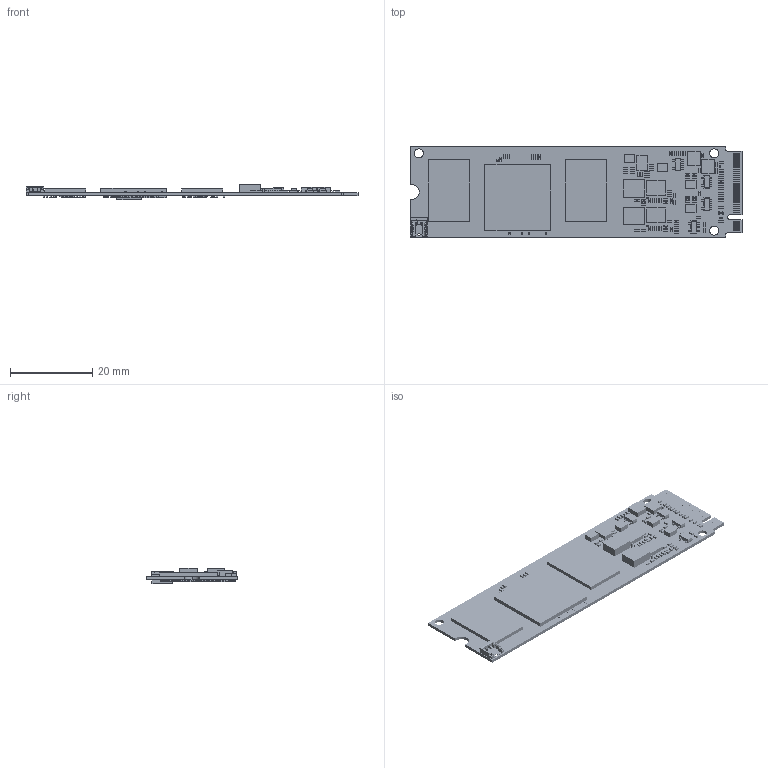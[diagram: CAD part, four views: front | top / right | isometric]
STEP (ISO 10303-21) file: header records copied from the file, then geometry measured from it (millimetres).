
FILE_DESCRIPTION((''),'2;1');
FILE_NAME('RM650_V1_1_20251020_ASM','2026-06-22T14:44:57',('Owen'),(''),'CREO PARAMETRIC BY PTC INC, 2026053','CREO PARAMETRIC BY PTC INC, 2026053','');
FILE_SCHEMA(('CONFIG_CONTROL_DESIGN','SHAPE_APPEARANCE_LAYERS_GROUPS'));
Length unit declared in the file: millimetre
Products named in the file (21): RM650_V1_1_20251020; R0201; L0402_4P2X4P4X1P8; QFN12_MP2145; QFN21_4P0X3P0_0P4; SOT23_3; L1008; AX650_16X16_0P5658; BGA200_15P0X10P0_0P65; X4_2016_H0P5; JUNCTION_P2; WSON8_6P0X5P0_1P27; SOT23_5; C0402S; C0201S; R0201S; R0402S; L0402S; __20002; 0007017_ASM; RM650_V1_1_20251020_ASM
Assembly tree (303 placements, depth 3):
  RM650_V1_1_20251020_ASM
    RM650_V1_1_20251020
    R0201
    L0402_4P2X4P4X1P8  x2
    QFN12_MP2145
    QFN21_4P0X3P0_0P4  x2
    SOT23_3  x2
    L1008  x4
    AX650_16X16_0P5658
    BGA200_15P0X10P0_0P65  x2
    X4_2016_H0P5
    JUNCTION_P2  x2
    WSON8_6P0X5P0_1P27
    SOT23_5  x4
    C0402S  x50
    C0201S  x149
    R0201S  x11
    R0402S  x65
    L0402S  x2
    0007017_ASM
      __20002
Bounding box: 80.5 x 22 x 3.7 mm (x, y, z)
Volume: 2187.8 mm3; surface area: 6155.4 mm2
Topology: 356 solids, 369 shells, 14008 faces, 31725 edges, 17527 vertices
Faces by surface type: cylinder 6098, plane 5293, sphere 2609, torus 8
Entity records: 32623 total; most frequent: CARTESIAN_POINT 5593, DIRECTION 5363, ORIENTED_EDGE 4736, EDGE_CURVE 2373, VECTOR 1981, LINE 1981, AXIS2_PLACEMENT_3D 1691, VERTEX_POINT 1492
